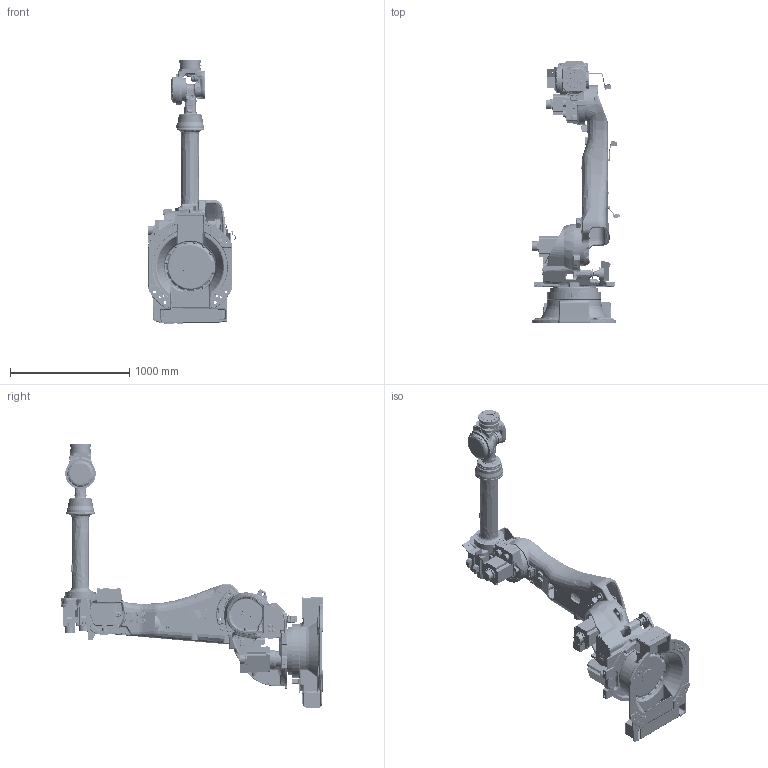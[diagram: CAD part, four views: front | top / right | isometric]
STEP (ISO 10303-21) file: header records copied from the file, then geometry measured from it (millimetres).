
FILE_DESCRIPTION (( 'STEP AP203' ), '1' );
FILE_NAME ('FD-V210.STEP', '2013-04-18T11:21:42', ( 'exesupport' ), ( '' ), 'SwSTEP 2.0', 'SolidWorks 2013', '' );
FILE_SCHEMA (( 'CONFIG_CONTROL_DESIGN' ));
Products named in the file (10): W1-021-2; FD210-J6; FD210-J5; FD210-BASE; FD-V210; FD210-J1; FD210-J2; FD210-J3; FD210-J4; FlangeB
Assembly tree (9 placements, depth 3):
  FD-V210
    FD210-BASE
    FD210-J1
    FD210-J2
    FD210-J3
    FD210-J4
    FD210-J6
      FlangeB
      W1-021-2
    FD210-J5
Bounding box: 735.91 x 2190 x 2205.5 mm (x, y, z)
Volume: 159490893 mm3; surface area: 13402036.4 mm2
Topology: 66 solids, 94 shells, 13044 faces, 32015 edges, 18787 vertices
Faces by surface type: bspline 10231, plane 2793, cylinder 18, torus 2
Entity records: 824970 total; most frequent: CARTESIAN_POINT 596688, ORIENTED_EDGE 62278, EDGE_CURVE 31175, B_SPLINE_CURVE_WITH_KNOTS 20590, VERTEX_POINT 18786, DIRECTION 16298, EDGE_LOOP 13937, ADVANCED_FACE 13043
